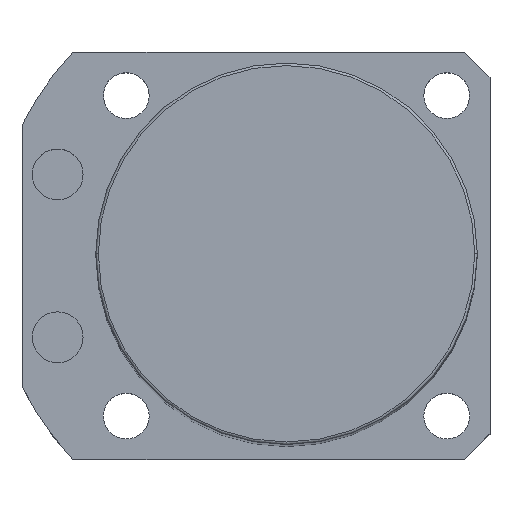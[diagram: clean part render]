
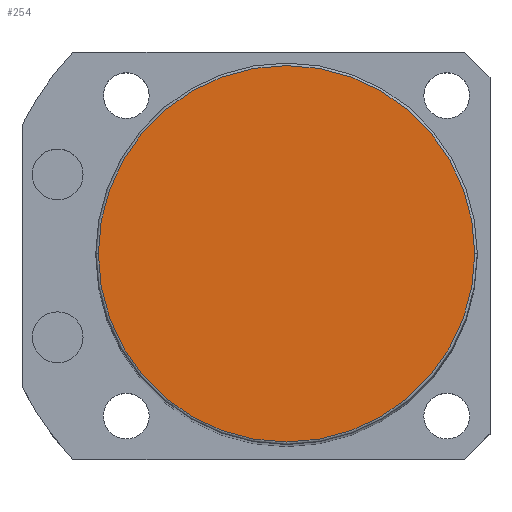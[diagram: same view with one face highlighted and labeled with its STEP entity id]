
A CAD part, top view. The second image highlights one B-rep face of the part: STEP entity #254.
In plain terms, the highlighted planar face has unit normal (0, 0, 1).
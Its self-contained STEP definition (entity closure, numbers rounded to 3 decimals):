
#100 = EDGE_CURVE ( 'NONE', #1480, #473, #1465, .T. ) ;
#194 = CARTESIAN_POINT ( 'NONE',  ( 37., 0., 250.5 ) ) ;
#216 = ORIENTED_EDGE ( 'NONE', *, *, #1934, .T. ) ;
#254 = ADVANCED_FACE ( 'NONE', ( #938 ), #2380, .T. ) ;
#379 = CARTESIAN_POINT ( 'NONE',  ( -37., 0., 250.5 ) ) ;
#473 = VERTEX_POINT ( 'NONE', #194 ) ;
#623 = ORIENTED_EDGE ( 'NONE', *, *, #100, .T. ) ;
#667 = AXIS2_PLACEMENT_3D ( 'NONE', #2209, #1009, #2011 ) ;
#735 = AXIS2_PLACEMENT_3D ( 'NONE', #1805, #1195, #1176 ) ;
#893 = CIRCLE ( 'NONE', #667, 37. ) ;
#938 = FACE_OUTER_BOUND ( 'NONE', #2223, .T. ) ;
#1009 = DIRECTION ( 'NONE',  ( 0., 0., 1. ) ) ;
#1176 = DIRECTION ( 'NONE',  ( 1., 0., 0. ) ) ;
#1195 = DIRECTION ( 'NONE',  ( 0., 0., 1. ) ) ;
#1358 = AXIS2_PLACEMENT_3D ( 'NONE', #1485, #2126, #1706 ) ;
#1465 = CIRCLE ( 'NONE', #1358, 37. ) ;
#1480 = VERTEX_POINT ( 'NONE', #379 ) ;
#1485 = CARTESIAN_POINT ( 'NONE',  ( 0., 0., 250.5 ) ) ;
#1706 = DIRECTION ( 'NONE',  ( 1., 0., 0. ) ) ;
#1805 = CARTESIAN_POINT ( 'NONE',  ( 0., 0., 250.5 ) ) ;
#1934 = EDGE_CURVE ( 'NONE', #473, #1480, #893, .T. ) ;
#2011 = DIRECTION ( 'NONE',  ( 1., 0., 0. ) ) ;
#2126 = DIRECTION ( 'NONE',  ( 0., 0., 1. ) ) ;
#2209 = CARTESIAN_POINT ( 'NONE',  ( 0., 0., 250.5 ) ) ;
#2223 = EDGE_LOOP ( 'NONE', ( #216, #623 ) ) ;
#2380 = PLANE ( 'NONE',  #735 ) ;
